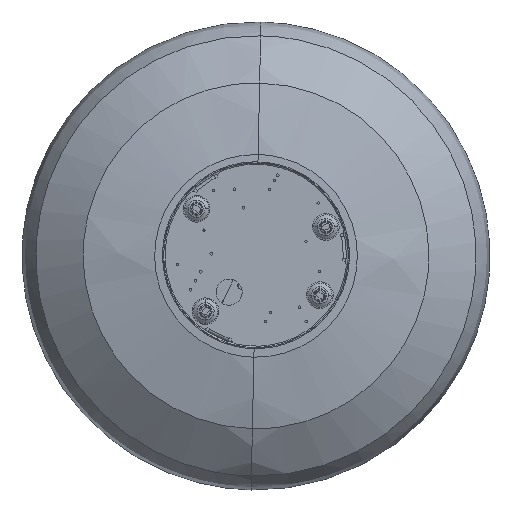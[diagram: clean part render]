
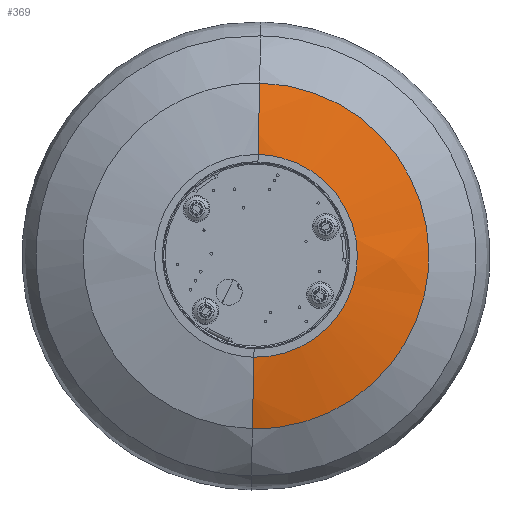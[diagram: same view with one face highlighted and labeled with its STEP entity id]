
A CAD part, top view. The second image highlights one B-rep face of the part: STEP entity #369.
In plain terms, the highlighted free-form (B-spline) face has degree [2, 2] with [5, 3] control points.
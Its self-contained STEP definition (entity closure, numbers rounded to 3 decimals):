
#369=ADVANCED_FACE('',(#1397),#15244,.T.);
#1397=FACE_OUTER_BOUND('',#2438,.T.);
#2438=EDGE_LOOP('',(#3869,#3870,#3871,#3872));
#3869=ORIENTED_EDGE('',*,*,#8741,.F.);
#3870=ORIENTED_EDGE('',*,*,#8744,.T.);
#3871=ORIENTED_EDGE('',*,*,#8794,.F.);
#3872=ORIENTED_EDGE('',*,*,#8793,.F.);
#8741=EDGE_CURVE('',#13686,#13685,#12429,.T.);
#8744=EDGE_CURVE('',#13686,#13687,#12432,.T.);
#8793=EDGE_CURVE('',#13685,#13712,#12477,.T.);
#8794=EDGE_CURVE('',#13712,#13687,#12478,.T.);
#12429=(
BOUNDED_CURVE()
B_SPLINE_CURVE(2,(#20263,#20264,#20265,#20266,#20267),.UNSPECIFIED.,.F.,
 .F.)
B_SPLINE_CURVE_WITH_KNOTS((3,2,3),(-1044.406,-783.305,
-522.203),.UNSPECIFIED.)
CURVE()
GEOMETRIC_REPRESENTATION_ITEM()
RATIONAL_B_SPLINE_CURVE((1.,0.707,1.,0.707,1.))
REPRESENTATION_ITEM('')
);
#12432=(
BOUNDED_CURVE()
B_SPLINE_CURVE(2,(#20278,#20279,#20280),.UNSPECIFIED.,.F.,.F.)
B_SPLINE_CURVE_WITH_KNOTS((3,3),(0.,98.723),
 .UNSPECIFIED.)
CURVE()
GEOMETRIC_REPRESENTATION_ITEM()
RATIONAL_B_SPLINE_CURVE((1.,0.991,1.))
REPRESENTATION_ITEM('')
);
#12477=(
BOUNDED_CURVE()
B_SPLINE_CURVE(2,(#20483,#20484,#20485),.UNSPECIFIED.,.F.,.F.)
B_SPLINE_CURVE_WITH_KNOTS((3,3),(0.,98.723),.UNSPECIFIED.)
CURVE()
GEOMETRIC_REPRESENTATION_ITEM()
RATIONAL_B_SPLINE_CURVE((1.,0.991,1.))
REPRESENTATION_ITEM('')
);
#12478=(
BOUNDED_CURVE()
B_SPLINE_CURVE(2,(#20486,#20487,#20488,#20489,#20490),.UNSPECIFIED.,.F.,
 .F.)
B_SPLINE_CURVE_WITH_KNOTS((3,2,3),(-306.134,-153.067,
0.),.UNSPECIFIED.)
CURVE()
GEOMETRIC_REPRESENTATION_ITEM()
RATIONAL_B_SPLINE_CURVE((1.,0.707,1.,0.707,1.))
REPRESENTATION_ITEM('')
);
#13685=VERTEX_POINT('',#20139);
#13686=VERTEX_POINT('',#20140);
#13687=VERTEX_POINT('',#20141);
#13712=VERTEX_POINT('',#20166);
#15244=(
BOUNDED_SURFACE()
B_SPLINE_SURFACE(2,2,((#19095,#19096,#19097),(#19098,#19099,#19100),(#19101,
#19102,#19103),(#19104,#19105,#19106),(#19107,#19108,#19109)),
 .UNSPECIFIED.,.F.,.F.,.F.)
B_SPLINE_SURFACE_WITH_KNOTS((3,2,3),(3,3),(664.89,997.335,
1329.78),(0.,98.723),.UNSPECIFIED.)
GEOMETRIC_REPRESENTATION_ITEM()
RATIONAL_B_SPLINE_SURFACE(((1.,0.991,1.),(0.707,
0.701,0.707),(1.,0.991,1.),(0.707,
0.701,0.707),(1.,0.991,1.)))
REPRESENTATION_ITEM('')
SURFACE()
);
#19095=CARTESIAN_POINT('',(-3.48,-166.186,-376.891));
#19096=CARTESIAN_POINT('',(-2.779,-132.734,-365.314));
#19097=CARTESIAN_POINT('',(-2.04,-97.424,-362.813));
#19098=CARTESIAN_POINT('',(162.706,-169.666,-376.891));
#19099=CARTESIAN_POINT('',(129.954,-135.513,-365.314));
#19100=CARTESIAN_POINT('',(95.384,-99.464,-362.813));
#19101=CARTESIAN_POINT('',(166.186,-3.48,-376.891));
#19102=CARTESIAN_POINT('',(132.734,-2.779,-365.314));
#19103=CARTESIAN_POINT('',(97.424,-2.04,-362.813));
#19104=CARTESIAN_POINT('',(169.666,162.706,-376.891));
#19105=CARTESIAN_POINT('',(135.513,129.954,-365.314));
#19106=CARTESIAN_POINT('',(99.464,95.384,-362.813));
#19107=CARTESIAN_POINT('',(3.48,166.186,-376.891));
#19108=CARTESIAN_POINT('',(2.779,132.734,-365.314));
#19109=CARTESIAN_POINT('',(2.04,97.424,-362.813));
#20139=CARTESIAN_POINT('',(-3.48,-166.186,-376.891));
#20140=CARTESIAN_POINT('',(3.48,166.186,-376.891));
#20141=CARTESIAN_POINT('',(2.04,97.424,-362.813));
#20166=CARTESIAN_POINT('',(-2.04,-97.424,-362.813));
#20263=CARTESIAN_POINT('',(3.48,166.186,-376.891));
#20264=CARTESIAN_POINT('',(169.666,162.706,-376.891));
#20265=CARTESIAN_POINT('',(166.186,-3.48,-376.891));
#20266=CARTESIAN_POINT('',(162.706,-169.666,-376.891));
#20267=CARTESIAN_POINT('',(-3.48,-166.186,-376.891));
#20278=CARTESIAN_POINT('',(3.48,166.186,-376.891));
#20279=CARTESIAN_POINT('',(2.779,132.734,-365.314));
#20280=CARTESIAN_POINT('',(2.04,97.424,-362.813));
#20483=CARTESIAN_POINT('',(-3.48,-166.186,-376.891));
#20484=CARTESIAN_POINT('',(-2.779,-132.734,-365.314));
#20485=CARTESIAN_POINT('',(-2.04,-97.424,-362.813));
#20486=CARTESIAN_POINT('',(-2.04,-97.424,-362.813));
#20487=CARTESIAN_POINT('',(95.384,-99.464,-362.813));
#20488=CARTESIAN_POINT('',(97.424,-2.04,-362.813));
#20489=CARTESIAN_POINT('',(99.464,95.384,-362.813));
#20490=CARTESIAN_POINT('',(2.04,97.424,-362.813));
